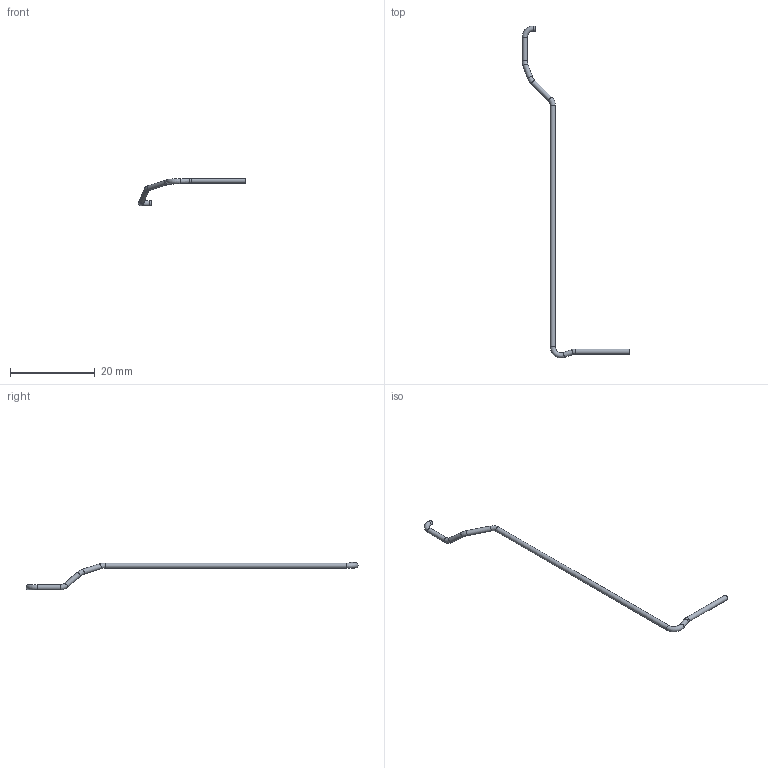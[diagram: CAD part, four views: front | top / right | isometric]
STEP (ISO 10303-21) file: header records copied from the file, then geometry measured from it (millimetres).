
FILE_DESCRIPTION(('Open CASCADE Model'),'2;1');
FILE_NAME('C27_R2_REF_Battery_Lead_2_100mm','2026-09-10T02:58:51',( 'Author'),('Open CASCADE'),'Open CASCADE STEP processor 7.9', 'build123d','Unknown');
FILE_SCHEMA(('AUTOMOTIVE_DESIGN { 1 0 10303 214 1 1 1 1 }'));
Length unit declared in the file: millimetre
Products named in the file (1): C27_R2_REF_Battery_Lead_2_100mm
Bounding box: 25.37 x 78.39 x 6.56 mm (x, y, z)
Volume: 113.1 mm3; surface area: 379.3 mm2
Topology: 1 solids, 1 shells, 15 faces, 27 edges, 14 vertices
Faces by surface type: cylinder 7, torus 6, plane 2
Full cylindrical faces by diameter (mm): 1.2 x7
Entity records: 712 total; most frequent: CARTESIAN_POINT 136, DIRECTION 108, ORIENTED_EDGE 54, PCURVE 54, DEFINITIONAL_REPRESENTATION 54, AXIS2_PLACEMENT_3D 36, LINE 34, VECTOR 34
